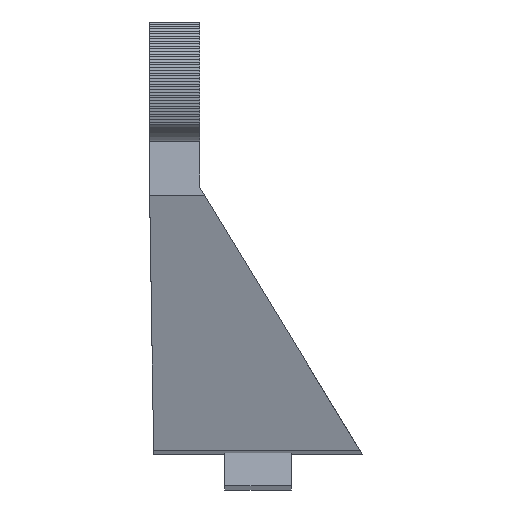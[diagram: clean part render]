
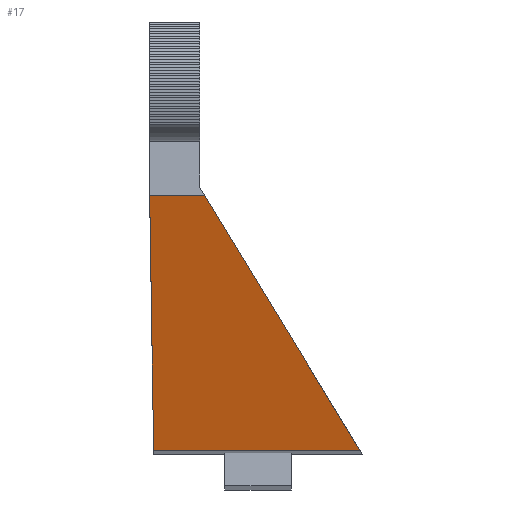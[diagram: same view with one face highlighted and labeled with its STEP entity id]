
A CAD part, front view. The second image highlights one B-rep face of the part: STEP entity #17.
In plain terms, the highlighted planar face has unit normal (0, -0.966, -0.26).
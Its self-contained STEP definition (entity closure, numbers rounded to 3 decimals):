
#17 = ADVANCED_FACE('',(#18),#32,.F.);
#18 = FACE_BOUND('',#19,.T.);
#19 = EDGE_LOOP('',(#20,#55,#83,#111));
#20 = ORIENTED_EDGE('',*,*,#21,.F.);
#21 = EDGE_CURVE('',#22,#24,#26,.T.);
#22 = VERTEX_POINT('',#23);
#23 = CARTESIAN_POINT('',(-25.016,20.389,
    -86.978));
#24 = VERTEX_POINT('',#25);
#25 = CARTESIAN_POINT('',(-25.969,4.,-26.));
#26 = SURFACE_CURVE('',#27,(#31,#43),.PCURVE_S1.);
#27 = LINE('',#28,#29);
#28 = CARTESIAN_POINT('',(-25.585,10.598,
    -50.547));
#29 = VECTOR('',#30,1.);
#30 = DIRECTION('',(-0.015,-0.26,0.966)
  );
#31 = PCURVE('',#32,#37);
#32 = PLANE('',#33);
#33 = AXIS2_PLACEMENT_3D('',#34,#35,#36);
#34 = CARTESIAN_POINT('',(-26.,20.664,-88.));
#35 = DIRECTION('',(-0.,0.966,0.26));
#36 = DIRECTION('',(0.,0.26,-0.966));
#37 = DEFINITIONAL_REPRESENTATION('',(#38),#42);
#38 = LINE('',#39,#40);
#39 = CARTESIAN_POINT('',(-38.783,-0.415));
#40 = VECTOR('',#41,1.);
#41 = DIRECTION('',(-1.,0.015));
#42 = ( GEOMETRIC_REPRESENTATION_CONTEXT(2) 
PARAMETRIC_REPRESENTATION_CONTEXT() REPRESENTATION_CONTEXT('2D SPACE',''
  ) );
#43 = PCURVE('',#44,#49);
#44 = PLANE('',#45);
#45 = AXIS2_PLACEMENT_3D('',#46,#47,#48);
#46 = CARTESIAN_POINT('',(-26.,-40.,-24.));
#47 = DIRECTION('',(1.,-0.,0.016));
#48 = DIRECTION('',(-0.016,0.,1.));
#49 = DEFINITIONAL_REPRESENTATION('',(#50),#54);
#50 = LINE('',#51,#52);
#51 = CARTESIAN_POINT('',(-26.55,-50.598));
#52 = VECTOR('',#53,1.);
#53 = DIRECTION('',(0.966,0.26));
#54 = ( GEOMETRIC_REPRESENTATION_CONTEXT(2) 
PARAMETRIC_REPRESENTATION_CONTEXT() REPRESENTATION_CONTEXT('2D SPACE',''
  ) );
#55 = ORIENTED_EDGE('',*,*,#56,.F.);
#56 = EDGE_CURVE('',#57,#22,#59,.T.);
#57 = VERTEX_POINT('',#58);
#58 = CARTESIAN_POINT('',(24.377,20.389,
    -86.978));
#59 = SURFACE_CURVE('',#60,(#64,#71),.PCURVE_S1.);
#60 = LINE('',#61,#62);
#61 = CARTESIAN_POINT('',(-43.,20.389,-86.978));
#62 = VECTOR('',#63,1.);
#63 = DIRECTION('',(-1.,-0.,-0.));
#64 = PCURVE('',#32,#65);
#65 = DEFINITIONAL_REPRESENTATION('',(#66),#70);
#66 = LINE('',#67,#68);
#67 = CARTESIAN_POINT('',(-1.058,17.));
#68 = VECTOR('',#69,1.);
#69 = DIRECTION('',(-0.,1.));
#70 = ( GEOMETRIC_REPRESENTATION_CONTEXT(2) 
PARAMETRIC_REPRESENTATION_CONTEXT() REPRESENTATION_CONTEXT('2D SPACE',''
  ) );
#71 = PCURVE('',#72,#77);
#72 = PLANE('',#73);
#73 = AXIS2_PLACEMENT_3D('',#74,#75,#76);
#74 = CARTESIAN_POINT('',(-60.,68.084,-92.834));
#75 = DIRECTION('',(0.,0.122,0.993));
#76 = DIRECTION('',(-1.,0.,0.));
#77 = DEFINITIONAL_REPRESENTATION('',(#78),#82);
#78 = LINE('',#79,#80);
#79 = CARTESIAN_POINT('',(-17.,48.052));
#80 = VECTOR('',#81,1.);
#81 = DIRECTION('',(1.,-0.));
#82 = ( GEOMETRIC_REPRESENTATION_CONTEXT(2) 
PARAMETRIC_REPRESENTATION_CONTEXT() REPRESENTATION_CONTEXT('2D SPACE',''
  ) );
#83 = ORIENTED_EDGE('',*,*,#84,.F.);
#84 = EDGE_CURVE('',#85,#57,#87,.T.);
#85 = VERTEX_POINT('',#86);
#86 = CARTESIAN_POINT('',(-12.781,4.,-26.));
#87 = SURFACE_CURVE('',#88,(#92,#99),.PCURVE_S1.);
#88 = LINE('',#89,#90);
#89 = CARTESIAN_POINT('',(14.999,16.253,
    -71.588));
#90 = VECTOR('',#91,1.);
#91 = DIRECTION('',(0.507,0.224,-0.832));
#92 = PCURVE('',#32,#93);
#93 = DEFINITIONAL_REPRESENTATION('',(#94),#98);
#94 = LINE('',#95,#96);
#95 = CARTESIAN_POINT('',(-16.994,-40.999));
#96 = VECTOR('',#97,1.);
#97 = DIRECTION('',(0.862,-0.507));
#98 = ( GEOMETRIC_REPRESENTATION_CONTEXT(2) 
PARAMETRIC_REPRESENTATION_CONTEXT() REPRESENTATION_CONTEXT('2D SPACE',''
  ) );
#99 = PCURVE('',#100,#105);
#100 = PLANE('',#101);
#101 = AXIS2_PLACEMENT_3D('',#102,#103,#104);
#102 = CARTESIAN_POINT('',(25.,-40.,-88.));
#103 = DIRECTION('',(-0.854,0.,-0.52));
#104 = DIRECTION('',(0.52,0.,-0.854));
#105 = DEFINITIONAL_REPRESENTATION('',(#106),#110);
#106 = LINE('',#107,#108);
#107 = CARTESIAN_POINT('',(-19.219,-56.253));
#108 = VECTOR('',#109,1.);
#109 = DIRECTION('',(0.975,-0.224));
#110 = ( GEOMETRIC_REPRESENTATION_CONTEXT(2) 
PARAMETRIC_REPRESENTATION_CONTEXT() REPRESENTATION_CONTEXT('2D SPACE',''
  ) );
#111 = ORIENTED_EDGE('',*,*,#112,.F.);
#112 = EDGE_CURVE('',#24,#85,#113,.T.);
#113 = SURFACE_CURVE('',#114,(#118,#125),.PCURVE_S1.);
#114 = LINE('',#115,#116);
#115 = CARTESIAN_POINT('',(-26.,4.,-26.));
#116 = VECTOR('',#117,1.);
#117 = DIRECTION('',(1.,-0.,-0.));
#118 = PCURVE('',#32,#119);
#119 = DEFINITIONAL_REPRESENTATION('',(#120),#124);
#120 = LINE('',#121,#122);
#121 = CARTESIAN_POINT('',(-64.2,0.));
#122 = VECTOR('',#123,1.);
#123 = DIRECTION('',(-0.,-1.));
#124 = ( GEOMETRIC_REPRESENTATION_CONTEXT(2) 
PARAMETRIC_REPRESENTATION_CONTEXT() REPRESENTATION_CONTEXT('2D SPACE',''
  ) );
#125 = PCURVE('',#126,#131);
#126 = PLANE('',#127);
#127 = AXIS2_PLACEMENT_3D('',#128,#129,#130);
#128 = CARTESIAN_POINT('',(-26.,4.,-26.));
#129 = DIRECTION('',(0.,0.998,-0.067));
#130 = DIRECTION('',(0.,-0.067,-0.998));
#131 = DEFINITIONAL_REPRESENTATION('',(#132),#136);
#132 = LINE('',#133,#134);
#133 = CARTESIAN_POINT('',(-0.,0.));
#134 = VECTOR('',#135,1.);
#135 = DIRECTION('',(-0.,-1.));
#136 = ( GEOMETRIC_REPRESENTATION_CONTEXT(2) 
PARAMETRIC_REPRESENTATION_CONTEXT() REPRESENTATION_CONTEXT('2D SPACE',''
  ) );
